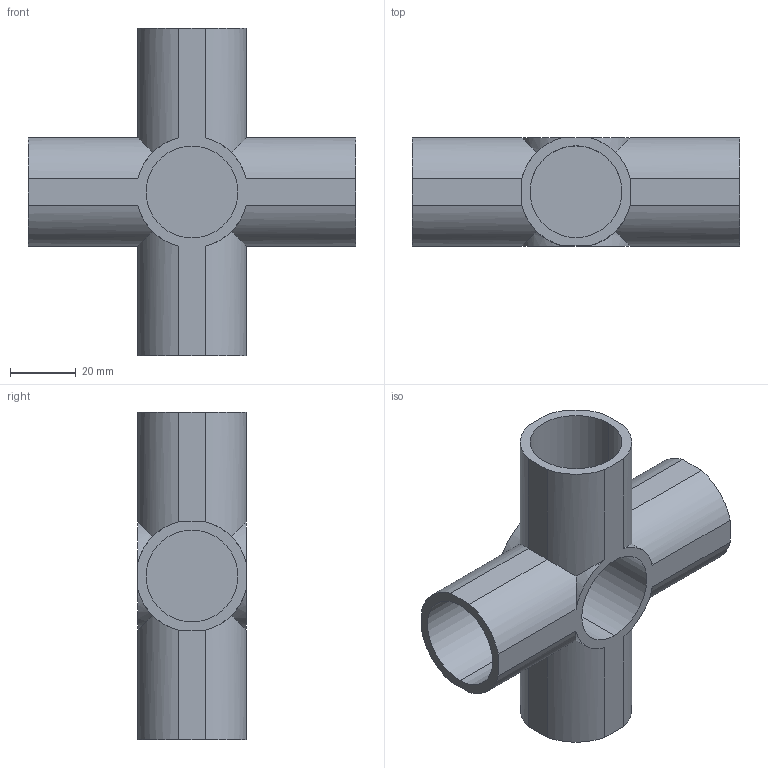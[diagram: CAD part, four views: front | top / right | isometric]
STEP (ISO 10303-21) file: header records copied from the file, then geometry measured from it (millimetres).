
FILE_DESCRIPTION (( 'STEP AP214' ), '1' );
FILE_NAME ('PJ-209.STEP', '2023-09-12T11:05:33', ( 'catia' ), ( 'HP Inc.' ), 'SwSTEP 2.0', 'SolidWorks 2021', '' );
FILE_SCHEMA (( 'AUTOMOTIVE_DESIGN' ));
Length unit declared in the file: millimetre
Products named in the file (1): PJ-209
Bounding box: 100 x 33 x 100 mm (x, y, z)
Volume: 62144.7 mm3; surface area: 33677.8 mm2
Topology: 1 solids, 1 shells, 53 faces, 130 edges, 84 vertices
Faces by surface type: cylinder 34, plane 19
Entity records: 1598 total; most frequent: CARTESIAN_POINT 340, ORIENTED_EDGE 260, DIRECTION 258, EDGE_CURVE 130, AXIS2_PLACEMENT_3D 98, VERTEX_POINT 84, VECTOR 62, LINE 62
